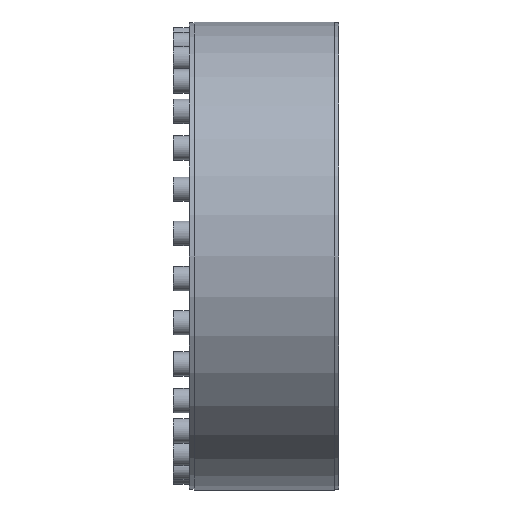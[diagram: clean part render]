
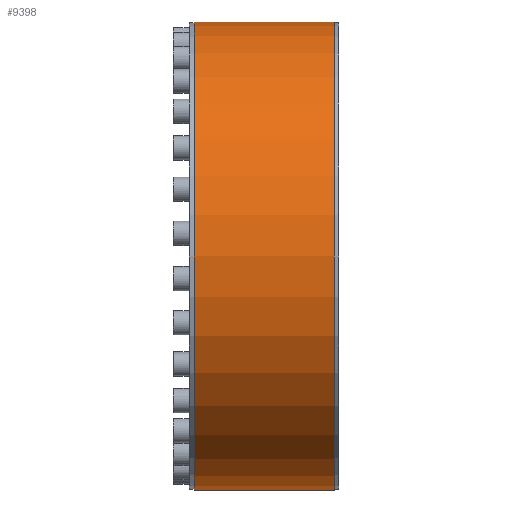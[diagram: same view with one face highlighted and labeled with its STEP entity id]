
A CAD part, left-side view. The second image highlights one B-rep face of the part: STEP entity #9398.
In plain terms, the highlighted cylindrical face has radius 317.5 mm (diameter 635 mm), a partial arc.
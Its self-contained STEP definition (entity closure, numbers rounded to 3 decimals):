
#142 = DIRECTION ( 'NONE',  ( 0., -1., 0. ) ) ;
#273 = VERTEX_POINT ( 'NONE', #5633 ) ;
#461 = EDGE_CURVE ( 'NONE', #2657, #7926, #642, .T. ) ;
#593 = AXIS2_PLACEMENT_3D ( 'NONE', #7363, #142, #9788 ) ;
#642 = CIRCLE ( 'NONE', #5333, 317.5 ) ;
#944 = VECTOR ( 'NONE', #1004, 1000. ) ;
#983 = CYLINDRICAL_SURFACE ( 'NONE', #8179, 317.5 ) ;
#1004 = DIRECTION ( 'NONE',  ( 0., -1., 0. ) ) ;
#1017 = CARTESIAN_POINT ( 'NONE',  ( 0., 95., 0. ) ) ;
#1190 = EDGE_LOOP ( 'NONE', ( #1567, #5574, #4349, #2182 ) ) ;
#1210 = CARTESIAN_POINT ( 'NONE',  ( 0., 0., 0. ) ) ;
#1457 = CARTESIAN_POINT ( 'NONE',  ( 0., 0., 317.5 ) ) ;
#1514 = LINE ( 'NONE', #2005, #4576 ) ;
#1567 = ORIENTED_EDGE ( 'NONE', *, *, #5941, .F. ) ;
#2005 = CARTESIAN_POINT ( 'NONE',  ( 0., 0., -317.5 ) ) ;
#2099 = LINE ( 'NONE', #1457, #944 ) ;
#2102 = DIRECTION ( 'NONE',  ( 0., 0., -1. ) ) ;
#2182 = ORIENTED_EDGE ( 'NONE', *, *, #2775, .F. ) ;
#2657 = VERTEX_POINT ( 'NONE', #3102 ) ;
#2751 = FACE_OUTER_BOUND ( 'NONE', #1190, .T. ) ;
#2775 = EDGE_CURVE ( 'NONE', #273, #3362, #5319, .T. ) ;
#3102 = CARTESIAN_POINT ( 'NONE',  ( 0., 95., 317.5 ) ) ;
#3362 = VERTEX_POINT ( 'NONE', #7476 ) ;
#4349 = ORIENTED_EDGE ( 'NONE', *, *, #8610, .T. ) ;
#4576 = VECTOR ( 'NONE', #10412, 1000. ) ;
#5319 = CIRCLE ( 'NONE', #593, 317.5 ) ;
#5333 = AXIS2_PLACEMENT_3D ( 'NONE', #1017, #6990, #2102 ) ;
#5574 = ORIENTED_EDGE ( 'NONE', *, *, #461, .T. ) ;
#5633 = CARTESIAN_POINT ( 'NONE',  ( 0., -95., 317.5 ) ) ;
#5941 = EDGE_CURVE ( 'NONE', #2657, #273, #2099, .T. ) ;
#6235 = DIRECTION ( 'NONE',  ( 0., 0., -1. ) ) ;
#6990 = DIRECTION ( 'NONE',  ( 0., -1., 0. ) ) ;
#7363 = CARTESIAN_POINT ( 'NONE',  ( 0., -95., 0. ) ) ;
#7476 = CARTESIAN_POINT ( 'NONE',  ( 0., -95., -317.5 ) ) ;
#7926 = VERTEX_POINT ( 'NONE', #9644 ) ;
#8179 = AXIS2_PLACEMENT_3D ( 'NONE', #1210, #8677, #6235 ) ;
#8610 = EDGE_CURVE ( 'NONE', #7926, #3362, #1514, .T. ) ;
#8677 = DIRECTION ( 'NONE',  ( 0., -1., 0. ) ) ;
#9398 = ADVANCED_FACE ( 'NONE', ( #2751 ), #983, .T. ) ;
#9644 = CARTESIAN_POINT ( 'NONE',  ( 0., 95., -317.5 ) ) ;
#9788 = DIRECTION ( 'NONE',  ( 0., 0., -1. ) ) ;
#10412 = DIRECTION ( 'NONE',  ( 0., -1., 0. ) ) ;
